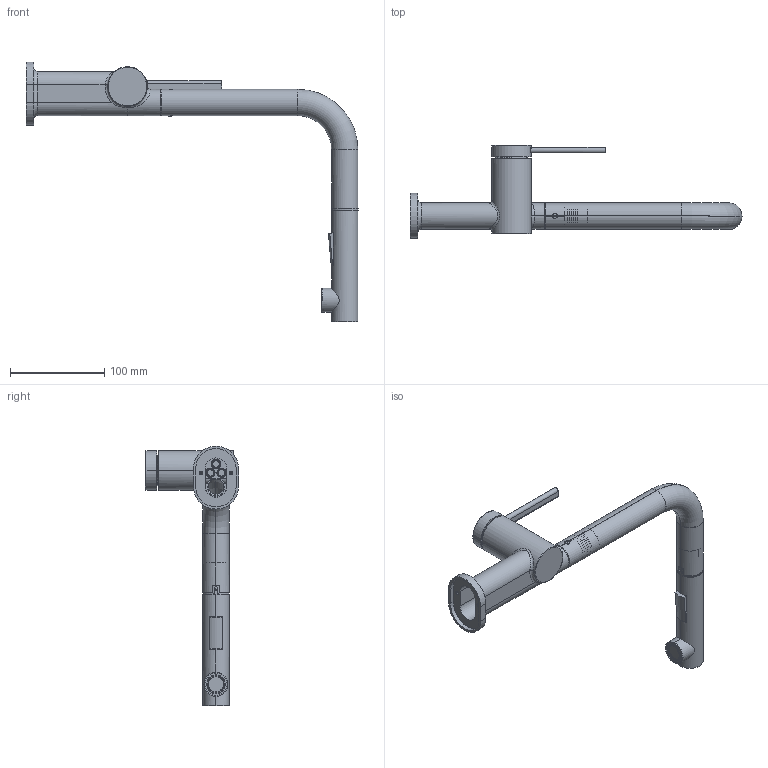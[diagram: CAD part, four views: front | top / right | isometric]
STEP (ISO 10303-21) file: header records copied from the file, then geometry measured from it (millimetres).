
FILE_DESCRIPTION((''),'2;1');
FILE_NAME('8020008_ASM','2023-04-20T',('OSSODESIGN'),(''),'PRO/ENGINEER BY PARAMETRIC TECHNOLOGY CORPORATION, 2015240','PRO/ENGINEER BY PARAMETRIC TECHNOLOGY CORPORATION, 2015240','');
FILE_SCHEMA(('CONFIG_CONTROL_DESIGN'));
Length unit declared in the file: millimetre
Products named in the file (15): 7010153; 7080327; 7130125; 7100253; 7200078; 7190009; 7370007; 7140077; 7140082; 7050043; 7020150; 7150066; 7040063; 7100171; 8020008_ASM
Assembly tree (15 placements, depth 2):
  8020008_ASM
    7010153
    7080327
    7130125
    7100253  x2
    7200078
    7190009
    7370007
    7140077
    7140082
    7050043
    7020150
    7150066
    7040063
    7100171
Bounding box: 353.05 x 99 x 276.3 mm (x, y, z)
Volume: 244936 mm3; surface area: 168047.6 mm2
Topology: 16 solids, 16 shells, 821 faces, 2029 edges, 1308 vertices
Faces by surface type: cylinder 339, plane 335, cone 60, torus 49, bspline 32, sphere 6
Entity records: 30744 total; most frequent: CARTESIAN_POINT 10771, DIRECTION 4246, ORIENTED_EDGE 4018, EDGE_CURVE 2009, AXIS2_PLACEMENT_3D 1630, VERTEX_POINT 1304, VECTOR 986, LINE 986
